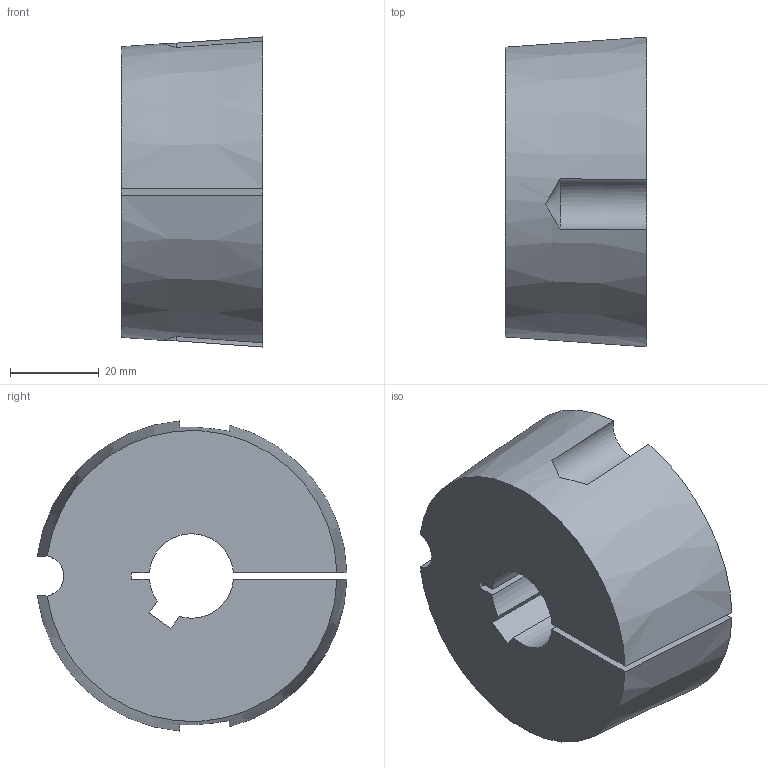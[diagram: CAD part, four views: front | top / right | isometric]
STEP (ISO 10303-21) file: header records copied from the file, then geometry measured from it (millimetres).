
FILE_DESCRIPTION( ( 'STEP AP203' ), '1' );
FILE_NAME( 'D:/export/antriebselemente/spannbuchsen_und_spannsaetze/taper-spannbuchsen_1008_bis_5050/taper-spannbuchsen_62250519Isometric_113.stp', '2018-12-11T11:11:11', ( '' ), ( '' ), ' ', 'PARTsolutions', ' ' );
FILE_SCHEMA( ( 'CONFIG_CONTROL_DESIGN' ) );
Length unit declared in the file: millimetre
Products named in the file (1): _taper-spannbuchsen_62250519
Bounding box: 31.8 x 69.72 x 69.81 mm (x, y, z)
Volume: 100240.1 mm3; surface area: 17476.7 mm2
Topology: 1 solids, 1 shells, 20 faces, 54 edges, 36 vertices
Faces by surface type: plane 10, cylinder 6, cone 4
Entity records: 752 total; most frequent: CARTESIAN_POINT 203, ORIENTED_EDGE 108, DIRECTION 104, EDGE_CURVE 54, AXIS2_PLACEMENT_3D 39, VERTEX_POINT 36, LINE 26, VECTOR 26
